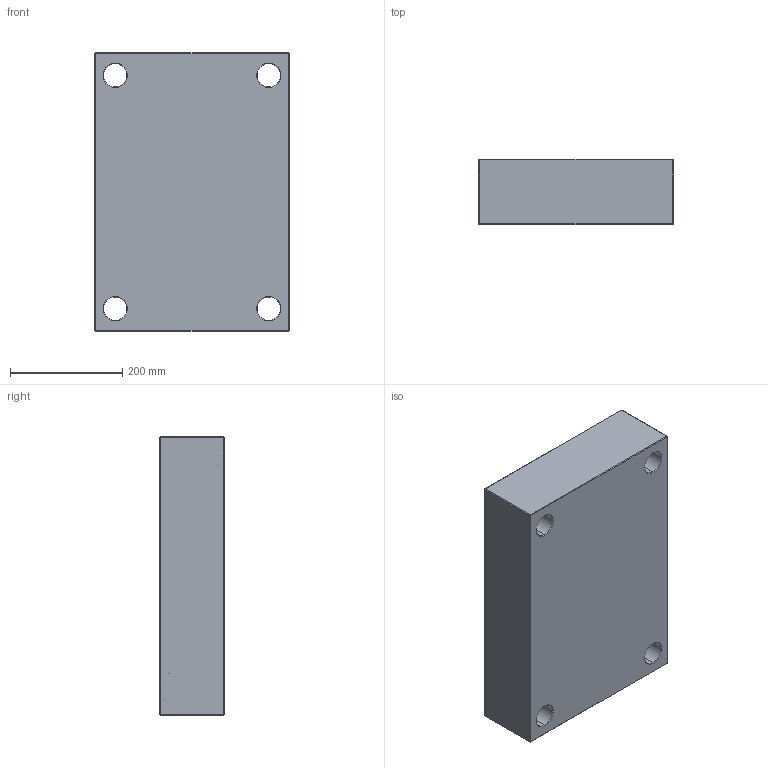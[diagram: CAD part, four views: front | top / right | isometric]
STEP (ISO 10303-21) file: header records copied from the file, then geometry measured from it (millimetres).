
FILE_DESCRIPTION (( 'STEP AP214' ), '1' );
FILE_NAME ('PCX-346x496x116.STEP', '2020-05-04T08:45:01', ( 'August' ), ( '' ), 'SwSTEP 2.0', 'SolidWorks 2018', '' );
FILE_SCHEMA (( 'AUTOMOTIVE_DESIGN' ));
Length unit declared in the file: millimetre
Products named in the file (1): PCX-346x496x116
Bounding box: 346 x 116 x 496 mm (x, y, z)
Volume: 19251327.5 mm3; surface area: 590611.5 mm2
Topology: 1 solids, 1 shells, 82 faces, 168 edges, 96 vertices
Faces by surface type: plane 34, cone 24, cylinder 24
Entity records: 2170 total; most frequent: DIRECTION 406, CARTESIAN_POINT 347, ORIENTED_EDGE 336, EDGE_CURVE 168, AXIS2_PLACEMENT_3D 155, EDGE_LOOP 98, VERTEX_POINT 96, VECTOR 96
